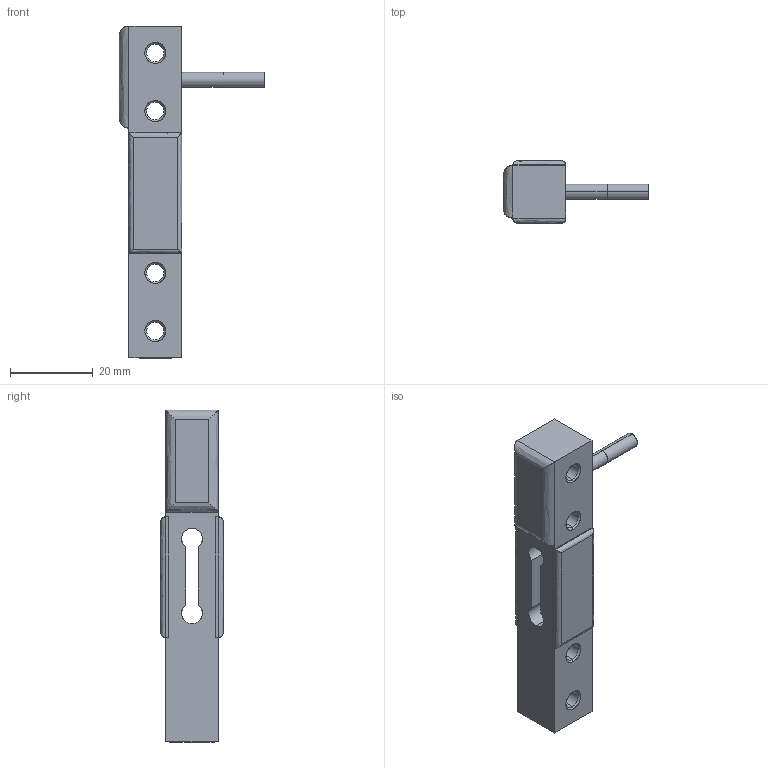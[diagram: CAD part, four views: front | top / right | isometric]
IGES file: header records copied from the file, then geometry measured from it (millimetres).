
Start section: SolidWorks IGES file using analytic representation for surfaces
Global section: file name: O:\16-Entwicklung\Projekte\Kraftsensoren\0204_KM102\Solid Works\127949_0204.2.3_Standard-KM 102_00.IGS; native system: SolidWorks 2012; preprocessor: SolidWorks 2012; author: andreb; date: 121025.103423; units: millimetre
Bounding box: 35 x 15 x 80.01 mm (x, y, z)
Surface area: 8272.3 mm2 (no closed solid volume)
Topology: 0 solids, 0 shells, 93 faces, 1074 edges, 1074 vertices
Faces by surface type: revolution 47, bspline 46
